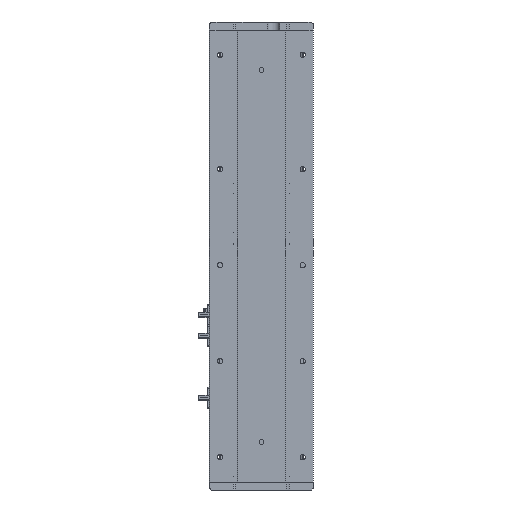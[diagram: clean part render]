
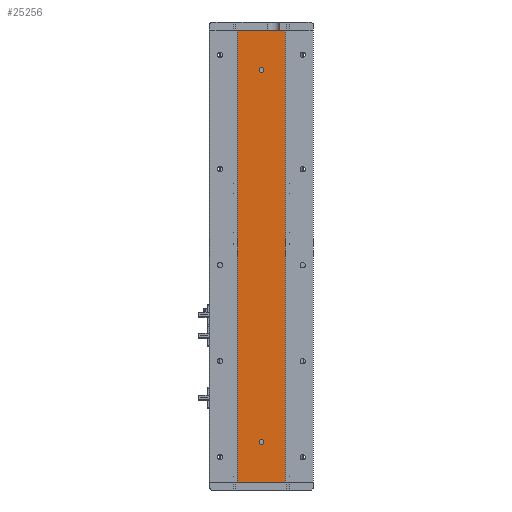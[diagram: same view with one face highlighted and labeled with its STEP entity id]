
A CAD part, left-side view. The second image highlights one B-rep face of the part: STEP entity #25256.
In plain terms, the highlighted planar face has unit normal (-1, 0, 0).
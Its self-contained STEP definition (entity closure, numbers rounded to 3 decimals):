
#325 = FACE_BOUND ( 'NONE', #21345, .T. ) ;
#719 = CARTESIAN_POINT ( 'NONE',  ( -21.994, 0., 50. ) ) ;
#1808 = ORIENTED_EDGE ( 'NONE', *, *, #24095, .T. ) ;
#1862 = AXIS2_PLACEMENT_3D ( 'NONE', #719, #17454, #3166 ) ;
#2791 = VERTEX_POINT ( 'NONE', #20991 ) ;
#3060 = VERTEX_POINT ( 'NONE', #22735 ) ;
#3166 = DIRECTION ( 'NONE',  ( 0., 0., 1. ) ) ;
#4056 = LINE ( 'NONE', #8083, #16751 ) ;
#4058 = VERTEX_POINT ( 'NONE', #15487 ) ;
#4274 = EDGE_CURVE ( 'NONE', #21080, #21447, #27412, .T. ) ;
#5184 = CARTESIAN_POINT ( 'NONE',  ( -21.994, 29.785, 565. ) ) ;
#5374 = ORIENTED_EDGE ( 'NONE', *, *, #6812, .F. ) ;
#5488 = VERTEX_POINT ( 'NONE', #27264 ) ;
#6006 = DIRECTION ( 'NONE',  ( -1., 0., 0. ) ) ;
#6609 = CARTESIAN_POINT ( 'NONE',  ( -21.994, 0., 515. ) ) ;
#6812 = EDGE_CURVE ( 'NONE', #14152, #4058, #28074, .T. ) ;
#6864 = CARTESIAN_POINT ( 'NONE',  ( -21.994, 0., 515. ) ) ;
#7010 = EDGE_CURVE ( 'NONE', #21447, #21080, #23188, .T. ) ;
#7165 = EDGE_LOOP ( 'NONE', ( #1808, #24113, #21209, #20119 ) ) ;
#7576 = DIRECTION ( 'NONE',  ( 0., 0., -1. ) ) ;
#7838 = CARTESIAN_POINT ( 'NONE',  ( -21.994, 0., 512. ) ) ;
#8083 = CARTESIAN_POINT ( 'NONE',  ( -21.994, 29.785, 565. ) ) ;
#8827 = CARTESIAN_POINT ( 'NONE',  ( -21.994, 29.785, 565. ) ) ;
#9000 = DIRECTION ( 'NONE',  ( 0., 0., 1. ) ) ;
#9259 = DIRECTION ( 'NONE',  ( 0., 0., 1. ) ) ;
#9859 = PLANE ( 'NONE',  #15039 ) ;
#10124 = VECTOR ( 'NONE', #11230, 1000. ) ;
#10921 = AXIS2_PLACEMENT_3D ( 'NONE', #6609, #23237, #9000 ) ;
#11230 = DIRECTION ( 'NONE',  ( 0., -1., 0. ) ) ;
#11288 = EDGE_CURVE ( 'NONE', #2791, #30774, #14525, .T. ) ;
#11598 = CARTESIAN_POINT ( 'NONE',  ( -21.994, 0., 53. ) ) ;
#11731 = CARTESIAN_POINT ( 'NONE',  ( -21.994, 29.785, 0. ) ) ;
#13054 = FACE_OUTER_BOUND ( 'NONE', #7165, .T. ) ;
#14152 = VERTEX_POINT ( 'NONE', #11598 ) ;
#14525 = LINE ( 'NONE', #20362, #26460 ) ;
#15039 = AXIS2_PLACEMENT_3D ( 'NONE', #5184, #21810, #7576 ) ;
#15487 = CARTESIAN_POINT ( 'NONE',  ( -21.994, 0., 47. ) ) ;
#16023 = EDGE_CURVE ( 'NONE', #3060, #5488, #4056, .T. ) ;
#16067 = VECTOR ( 'NONE', #18889, 1000. ) ;
#16751 = VECTOR ( 'NONE', #24631, 1000. ) ;
#16865 = CARTESIAN_POINT ( 'NONE',  ( -21.994, -29.785, 0. ) ) ;
#17454 = DIRECTION ( 'NONE',  ( -1., 0., 0. ) ) ;
#18078 = EDGE_LOOP ( 'NONE', ( #5374, #21097 ) ) ;
#18889 = DIRECTION ( 'NONE',  ( 0., -1., 0. ) ) ;
#19573 = AXIS2_PLACEMENT_3D ( 'NONE', #20283, #6006, #22664 ) ;
#20119 = ORIENTED_EDGE ( 'NONE', *, *, #16023, .T. ) ;
#20283 = CARTESIAN_POINT ( 'NONE',  ( -21.994, 0., 50. ) ) ;
#20349 = EDGE_CURVE ( 'NONE', #4058, #14152, #23365, .T. ) ;
#20362 = CARTESIAN_POINT ( 'NONE',  ( -21.994, -29.785, 565. ) ) ;
#20991 = CARTESIAN_POINT ( 'NONE',  ( -21.994, -29.785, 565. ) ) ;
#21080 = VERTEX_POINT ( 'NONE', #27820 ) ;
#21097 = ORIENTED_EDGE ( 'NONE', *, *, #20349, .F. ) ;
#21209 = ORIENTED_EDGE ( 'NONE', *, *, #25006, .F. ) ;
#21345 = EDGE_LOOP ( 'NONE', ( #29959, #26268 ) ) ;
#21447 = VERTEX_POINT ( 'NONE', #7838 ) ;
#21810 = DIRECTION ( 'NONE',  ( 1., 0., 0. ) ) ;
#22419 = LINE ( 'NONE', #11731, #16067 ) ;
#22664 = DIRECTION ( 'NONE',  ( 0., 0., 1. ) ) ;
#22735 = CARTESIAN_POINT ( 'NONE',  ( -21.994, 29.785, 565. ) ) ;
#23188 = CIRCLE ( 'NONE', #10921, 3. ) ;
#23237 = DIRECTION ( 'NONE',  ( -1., 0., 0. ) ) ;
#23365 = CIRCLE ( 'NONE', #19573, 3. ) ;
#23501 = DIRECTION ( 'NONE',  ( -1., 0., 0. ) ) ;
#24095 = EDGE_CURVE ( 'NONE', #5488, #30774, #22419, .T. ) ;
#24113 = ORIENTED_EDGE ( 'NONE', *, *, #11288, .F. ) ;
#24631 = DIRECTION ( 'NONE',  ( 0., 0., -1. ) ) ;
#25006 = EDGE_CURVE ( 'NONE', #3060, #2791, #29867, .T. ) ;
#25153 = DIRECTION ( 'NONE',  ( 0., 0., -1. ) ) ;
#25256 = ADVANCED_FACE ( 'NONE', ( #325, #25739, #13054 ), #9859, .F. ) ;
#25739 = FACE_BOUND ( 'NONE', #18078, .T. ) ;
#26268 = ORIENTED_EDGE ( 'NONE', *, *, #7010, .F. ) ;
#26460 = VECTOR ( 'NONE', #25153, 1000. ) ;
#26461 = AXIS2_PLACEMENT_3D ( 'NONE', #6864, #23501, #9259 ) ;
#27264 = CARTESIAN_POINT ( 'NONE',  ( -21.994, 29.785, 0. ) ) ;
#27412 = CIRCLE ( 'NONE', #26461, 3. ) ;
#27820 = CARTESIAN_POINT ( 'NONE',  ( -21.994, 0., 518. ) ) ;
#28074 = CIRCLE ( 'NONE', #1862, 3. ) ;
#29867 = LINE ( 'NONE', #8827, #10124 ) ;
#29959 = ORIENTED_EDGE ( 'NONE', *, *, #4274, .F. ) ;
#30774 = VERTEX_POINT ( 'NONE', #16865 ) ;
